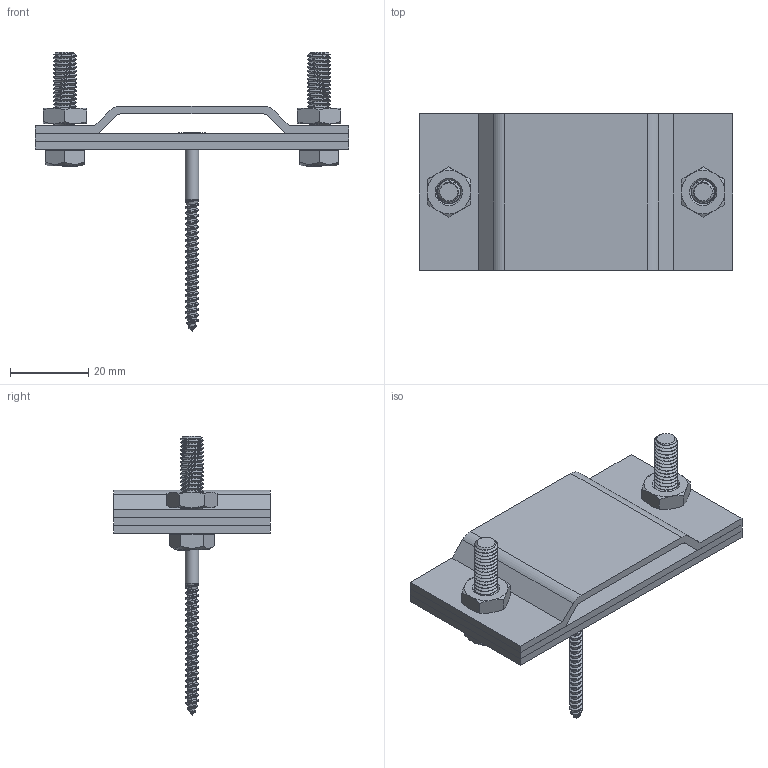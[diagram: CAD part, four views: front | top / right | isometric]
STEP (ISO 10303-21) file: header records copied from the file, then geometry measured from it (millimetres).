
FILE_DESCRIPTION(/* description */ (''),/* implementation_level */ '2;1');
FILE_NAME(/* name */ 'GE-DUKL-C.step',/* time_stamp */ '2025-12-16T17:10:52+03:00',/* author */ (''),/* organization */ (''),/* preprocessor_version */ 'ST-DEVELOPER v20.1',/* originating_system */ 'Autodesk Translation Framework v14.21.0.0',/* authorisation */ '');
FILE_SCHEMA (('AUTOMOTIVE_DESIGN { 1 0 10303 214 3 1 1 }'));
Length unit declared in the file: millimetre
Products named in the file (6): GE-DUKL-C; 90031A159_Phillips Flat Head Screws for Wood; 94863A202_High-Strength Class 10.9 Steel Hex Head Screw; 94846A029_Medium-Strength Steel Thin Hex Nut; 94863A202_High-Strength Class 10.9 Steel Hex Head Screw(Ayna); 94846A029_Medium-Strength Steel Thin Hex Nut(Ayna)
Assembly tree (5 placements, depth 2):
  GE-DUKL-C
    90031A159_Phillips Flat Head Screws for Wood
    94863A202_High-Strength Class 10.9 Steel Hex Head Screw
    94846A029_Medium-Strength Steel Thin Hex Nut
    94863A202_High-Strength Class 10.9 Steel Hex Head Screw(Ayna)
    94846A029_Medium-Strength Steel Thin Hex Nut(Ayna)
Bounding box: 80 x 40 x 71.35 mm (x, y, z)
Volume: 21763 mm3; surface area: 24183.4 mm2
Topology: 8 solids, 8 shells, 385 faces, 1024 edges, 671 vertices
Faces by surface type: cylinder 151, plane 120, bspline 64, cone 50
Full cylindrical faces by diameter (mm): 2.366 x20, 3.505 x1, 4.7 x2, 4.701 x46, 6 x48, 6.35 x4, 7.087 x1, 8.5 x5, 9.5 x2
Entity records: 29186 total; most frequent: CARTESIAN_POINT 20676, ORIENTED_EDGE 2046, DIRECTION 1286, EDGE_CURVE 1023, VERTEX_POINT 671, LINE 444, VECTOR 444, AXIS2_PLACEMENT_3D 421
